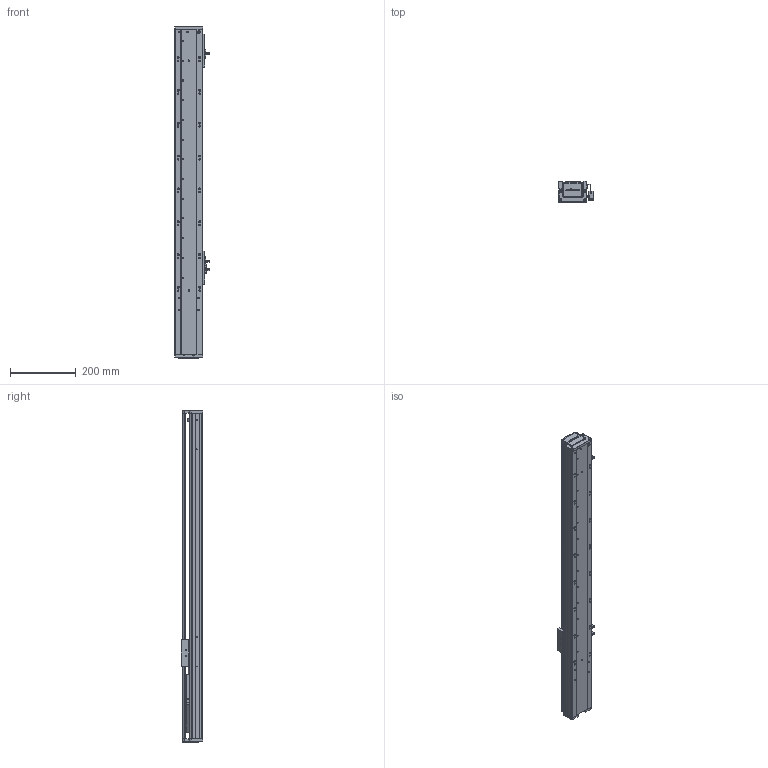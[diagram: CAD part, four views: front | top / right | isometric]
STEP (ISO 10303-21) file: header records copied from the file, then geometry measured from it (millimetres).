
FILE_DESCRIPTION (( 'STEP AP203' ), '1' );
FILE_NAME ('RY80-L1620-300-IK.SLDASM_650.step', '2021-02-22T05:29:12', ( '盈信电脑' ), ( '东莞市道滘镇水果街19号' ), 'SwSTEP 2.0', 'SolidWorks 2012', '' );
FILE_SCHEMA (( 'CONFIG_CONTROL_DESIGN' ));
Length unit declared in the file: millimetre
Products named in the file (14): 滅袉蝶18-24; RY80-L1620-300-IK.SLDASM_650; RY80囀离ヶ啣; 侂狟100W; RY80囀离萇儂啣; RY80俋离覜茼え; 滅袉蝶18-10; 672嫖萇羲壽假蚾釱; 覜茼ん672; RY80萇儂傷盓傅釱; RY80-300倰第奻裔啣-IK_650; RY80綴裔啣; RY80臏賑輸; RY80-300倰第菁釱-IK_650
Assembly tree (16 placements, depth 2):
  RY80-L1620-300-IK.SLDASM_650
    RY80-300倰第菁釱-IK_650
    RY80臏賑輸
    RY80-300倰第奻裔啣-IK_650
    RY80萇儂傷盓傅釱
    RY80綴裔啣
    滅袉蝶18-10
    672嫖萇羲壽假蚾釱  x2
    覜茼ん672  x3
    RY80俋离覜茼え
    侂狟100W
    RY80囀离萇儂啣
    RY80囀离ヶ啣
    滅袉蝶18-24
Bounding box: 103.7 x 65 x 1011 mm (x, y, z)
Volume: 1725194.9 mm3; surface area: 723166.7 mm2
Topology: 16 solids, 16 shells, 2127 faces, 5916 edges, 3859 vertices
Faces by surface type: plane 1282, cylinder 706, cone 95, bspline 44
Entity records: 67751 total; most frequent: CARTESIAN_POINT 17363, ORIENTED_EDGE 10552, DIRECTION 9477, EDGE_CURVE 5276, VECTOR 3479, LINE 3479, VERTEX_POINT 3475, AXIS2_PLACEMENT_3D 2999
